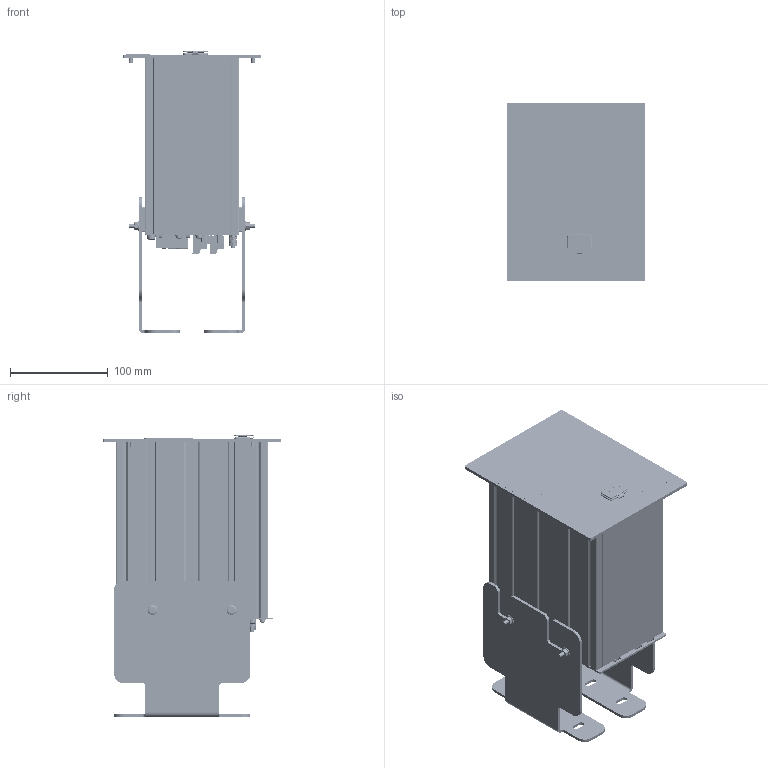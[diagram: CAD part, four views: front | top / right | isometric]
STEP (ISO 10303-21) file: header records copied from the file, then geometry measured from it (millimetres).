
FILE_DESCRIPTION (( 'STEP AP214' ), '1' );
FILE_NAME ('WallMounting_B11.STEP', '2026-04-17T13:26:35', ( '' ), ( '' ), 'SwSTEP 2.0', 'SolidWorks 2023', '' );
FILE_SCHEMA (( 'AUTOMOTIVE_DESIGN' ));
Length unit declared in the file: millimetre
Products named in the file (1): WallMounting_B11
Bounding box: 141.5 x 183 x 289.7 mm (x, y, z)
Surface area: 622070 mm2 (no closed solid volume)
Topology: 0 solids, 94 shells, 12753 faces, 38420 edges, 26321 vertices
Faces by surface type: plane 8525, cylinder 2544, cone 737, bspline 733, torus 168, sphere 46
Full cylindrical faces by diameter (mm): 0.2 x1
Entity records: 599405 total; most frequent: CARTESIAN_POINT 122042, ORIENTED_EDGE 75092, DIRECTION 65500, EDGE_CURVE 38338, LINE 27278, VECTOR 27278, VERTEX_POINT 26319, AXIS2_PLACEMENT_3D 19111
